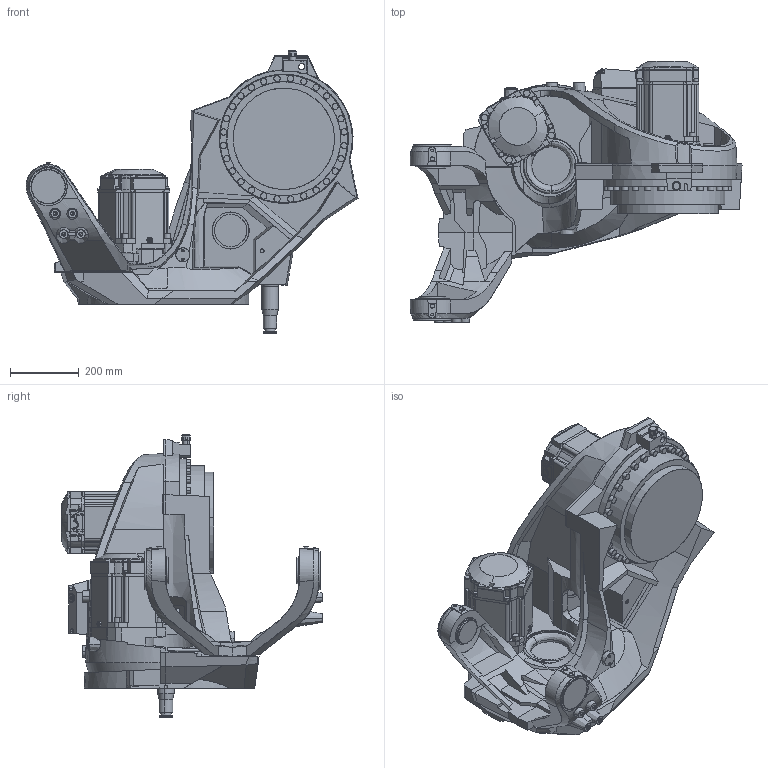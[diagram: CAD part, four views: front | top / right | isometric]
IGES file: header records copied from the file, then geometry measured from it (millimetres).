
Start section: SolidWorks IGES file using analytic representation for surfaces
Global section: file name: C:\DATA\SAP_DOC\LW\IRB 6730\IRB6730-LID-SW_190kg-310_OC_01_SW_J\Export\IRB6730-LID-SW_190kg-310_OC_01_IGES_J\IRB6730-LID_190kg-310_OC_00_LINK01_CAD.igs; native system: SolidWorks 2024; preprocessor: SolidWorks 2024; author: SEJOVAS3; date: 260526.111627; units: millimetre
Bounding box: 966.64 x 760 x 822 mm (x, y, z)
Surface area: 2928913.4 mm2 (no closed solid volume)
Topology: 0 solids, 0 shells, 2101 faces, 30469 edges, 30443 vertices
Faces by surface type: bspline 1305, revolution 796
